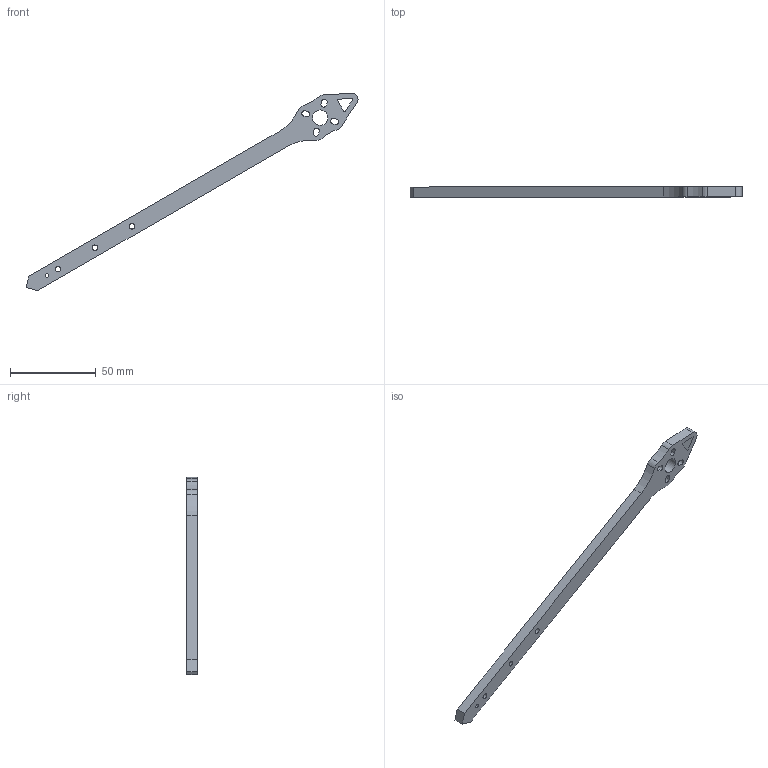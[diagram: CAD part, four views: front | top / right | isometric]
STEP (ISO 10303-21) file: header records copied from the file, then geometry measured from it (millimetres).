
FILE_DESCRIPTION(/* description */ ('STEP AP242','CAx-IF Rec.Pracs.---Representation and Presentation of Product Manufacturing Information (PMI)---4.0---2014-10-13','CAx-IF Rec.Pracs.---3D Tessellated Geometry---0.4---2014-09-14','2;1'),/* implementation_level */ '2;1');
FILE_NAME(/* name */ '679bb0f95e1bcc04624b9e2a',/* time_stamp */ '2025-01-30T17:03:54Z',/* author */ (''),/* organization */ (''),/* preprocessor_version */ 'ST-DEVELOPER v20',/* originating_system */ 'ONSHAPE BY PTC INC, 1.192',/* authorisation */ ' ');
FILE_SCHEMA (('AP242_MANAGED_MODEL_BASED_3D_ENGINEERING_MIM_LF { 1 0 10303 442 1 1 4 }'));
Length unit declared in the file: metre
Products named in the file (1): bras
Bounding box: 194.12 x 6 x 115.38 mm (x, y, z)
Volume: 13957.3 mm3; surface area: 8285.9 mm2
Topology: 1 solids, 1 shells, 44 faces, 126 edges, 84 vertices
Faces by surface type: cylinder 25, plane 19
Full cylindrical faces by diameter (mm): 2.1 x1, 3.2 x3, 9 x1
Entity records: 1497 total; most frequent: DIRECTION 261, CARTESIAN_POINT 250, ORIENTED_EDGE 242, EDGE_CURVE 121, AXIS2_PLACEMENT_3D 95, VERTEX_POINT 84, LINE 71, VECTOR 71
